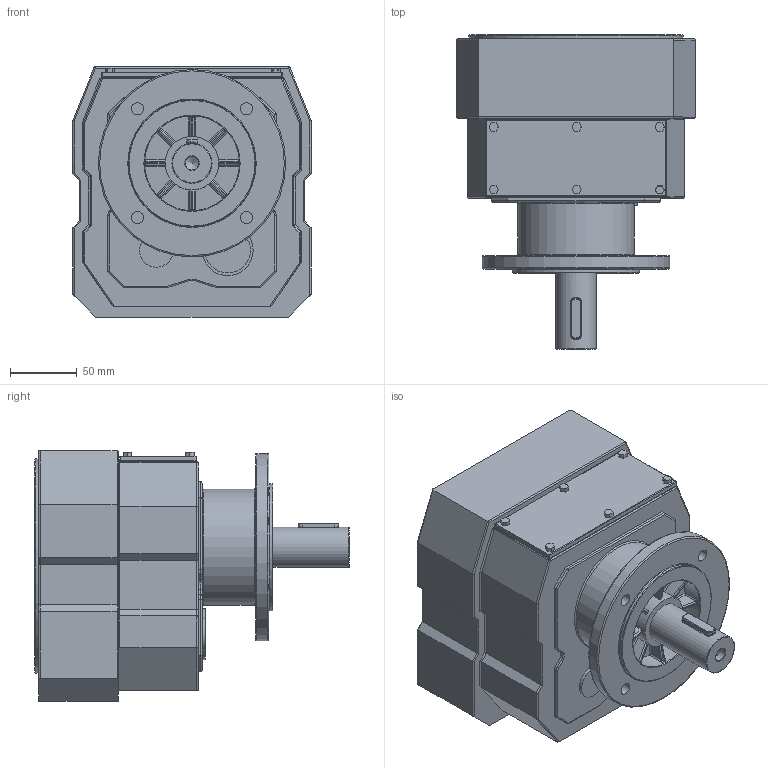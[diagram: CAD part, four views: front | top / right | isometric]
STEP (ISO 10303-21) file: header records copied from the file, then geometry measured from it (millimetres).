
FILE_DESCRIPTION((''),'2;1');
FILE_NAME('D:\PAWEŁ\ZLECENIA\2011 DualSystem\Przekładnie DR\DR40\STEP\DRF40_fi 140.stp','2012-06-11T11:54:09',('admin'),(''),'Autodesk Inventor 2009','Autodesk Inventor 2009','');
FILE_SCHEMA(('AUTOMOTIVE_DESIGN { 1 0 10303 214 1 1 1 1 }'));
Length unit declared in the file: millimetre
Products named in the file (1): DRF40_fi 140
Bounding box: 178 x 235 x 187 mm (x, y, z)
Volume: 3981035.8 mm3; surface area: 211864.4 mm2
Topology: 2 solids, 2 shells, 410 faces, 987 edges, 586 vertices
Faces by surface type: cylinder 170, plane 164, bspline 43, torus 19, sphere 14
Full cylindrical faces by diameter (mm): 25.333 x1, 30 x1, 34 x1, 38 x1, 40 x1, 71 x1, 87 x1, 95 x1, 120 x1, 140 x1, 160 x1
Entity records: 14410 total; most frequent: CARTESIAN_POINT 4902, DIRECTION 1992, ORIENTED_EDGE 1888, EDGE_CURVE 944, AXIS2_PLACEMENT_3D 722, VERTEX_POINT 579, VECTOR 548, LINE 548
